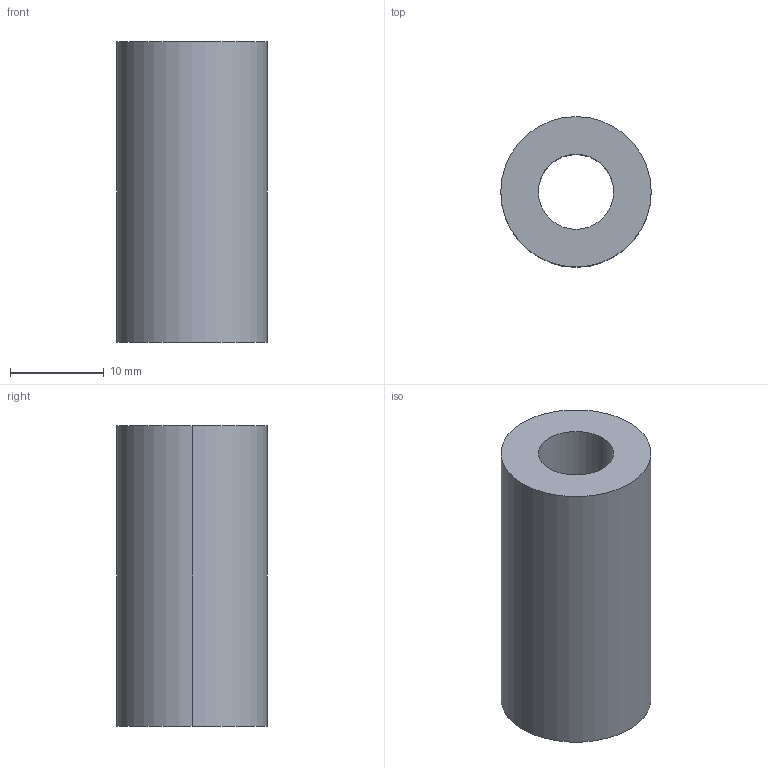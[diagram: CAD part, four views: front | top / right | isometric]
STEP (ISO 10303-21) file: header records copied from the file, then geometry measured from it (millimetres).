
FILE_DESCRIPTION (( 'STEP AP214' ), '1' );
FILE_NAME ('BRV-16X032.STEP', '2020-07-22T09:24:09', ( 'August' ), ( '' ), 'SwSTEP 2.0', 'SolidWorks 2018', '' );
FILE_SCHEMA (( 'AUTOMOTIVE_DESIGN' ));
Length unit declared in the file: millimetre
Products named in the file (1): BRV-16X032
Bounding box: 16 x 16 x 32 mm (x, y, z)
Volume: 4825.5 mm3; surface area: 2714.3 mm2
Topology: 1 solids, 1 shells, 6 faces, 12 edges, 8 vertices
Faces by surface type: cylinder 4, plane 2
Entity records: 202 total; most frequent: DIRECTION 34, CARTESIAN_POINT 27, ORIENTED_EDGE 24, AXIS2_PLACEMENT_3D 15, EDGE_CURVE 12, VERTEX_POINT 8, EDGE_LOOP 8, CIRCLE 8
